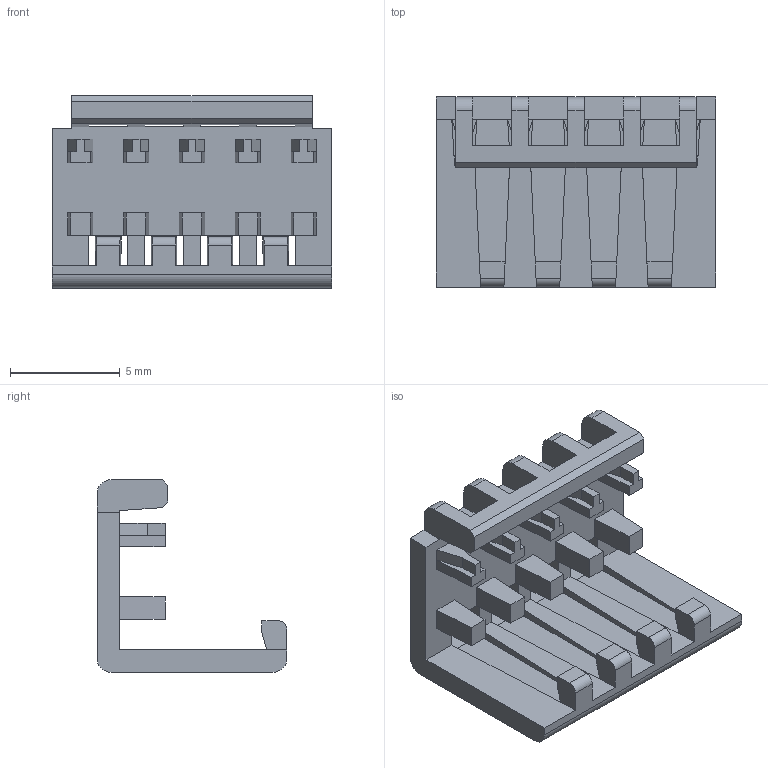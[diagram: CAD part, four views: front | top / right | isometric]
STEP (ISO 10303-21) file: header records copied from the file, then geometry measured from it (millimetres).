
FILE_DESCRIPTION (( 'STEP AP214' ), '1' );
FILE_NAME ('16685r1.STEP', '2011-07-11T14:02:04', ( 'Vicor User' ), ( 'Microsoft' ), 'SwSTEP 2.0', 'SolidWorks 2010', '' );
FILE_SCHEMA (( 'AUTOMOTIVE_DESIGN' ));
Length unit declared in the file: inch
Products named in the file (1): 16685r1
Bounding box: 12.7 x 8.64 x 8.76 mm (x, y, z)
Volume: 218.2 mm3; surface area: 642.9 mm2
Topology: 1 solids, 1 shells, 170 faces, 487 edges, 308 vertices
Faces by surface type: plane 159, cylinder 11
Entity records: 5457 total; most frequent: CARTESIAN_POINT 990, ORIENTED_EDGE 974, DIRECTION 835, EDGE_CURVE 487, VECTOR 465, LINE 465, VERTEX_POINT 308, AXIS2_PLACEMENT_3D 185
